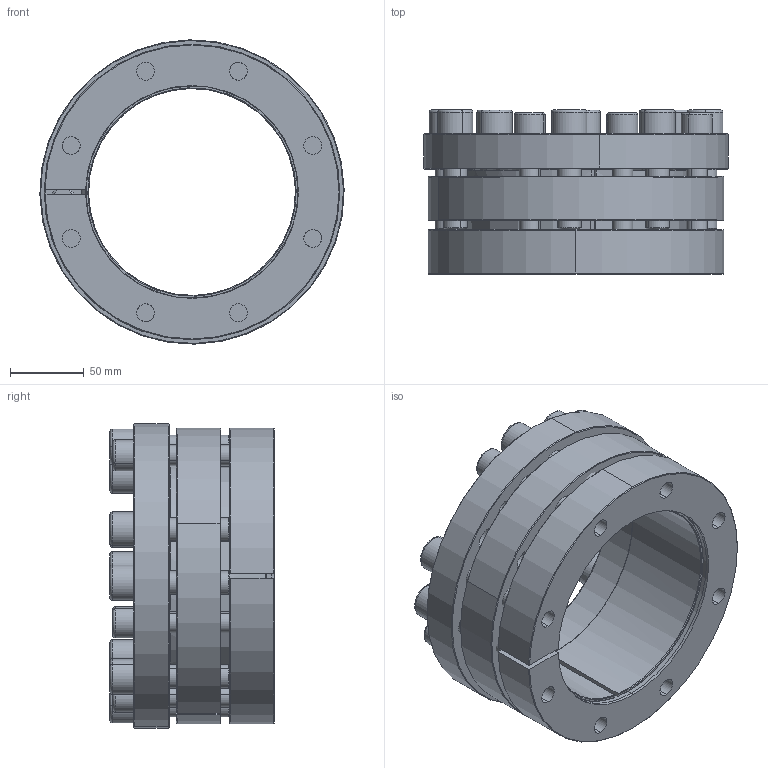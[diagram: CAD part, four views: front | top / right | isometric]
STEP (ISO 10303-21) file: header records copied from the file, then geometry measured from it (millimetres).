
FILE_DESCRIPTION (( 'STEP AP214' ), '1' );
FILE_NAME ('CONEX-P-140x200-P-026.step', '2015-11-30T21:13:29', ( '' ), ( '' ), 'SwSTEP 2.0', 'SolidWorks 2013', '' );
FILE_SCHEMA (( 'AUTOMOTIVE_DESIGN' ));
Length unit declared in the file: millimetre
Products named in the file (1): CONEX-P-140x200-P-026
Bounding box: 205.97 x 111 x 205.97 mm (x, y, z)
Volume: 1484516.9 mm3; surface area: 369282.5 mm2
Topology: 19 solids, 19 shells, 608 faces, 1417 edges, 848 vertices
Faces by surface type: plane 261, cylinder 171, cone 108, torus 68
Entity records: 24923 total; most frequent: CARTESIAN_POINT 3828, DIRECTION 3171, ORIENTED_EDGE 2770, EDGE_CURVE 1385, AXIS2_PLACEMENT_3D 1269, VERTEX_POINT 848, EDGE_LOOP 729, CIRCLE 660
